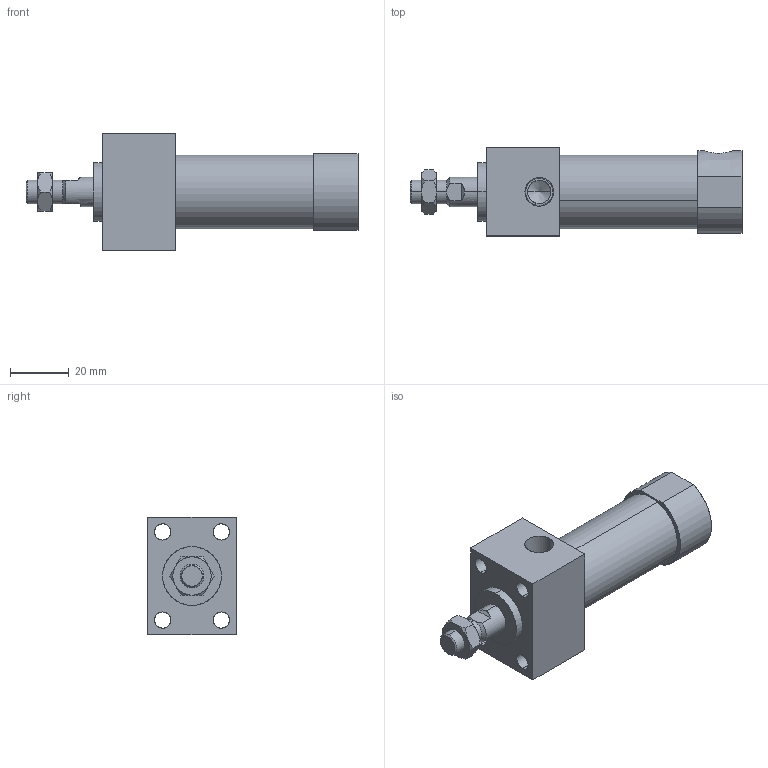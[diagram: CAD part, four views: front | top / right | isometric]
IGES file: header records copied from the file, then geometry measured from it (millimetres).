
Start section: SolidWorks IGES file using analytic representation for surfaces
Global section: file name: C:\Users\Toshiba\Desktop\JGEF2-20-15.IGS; native system: SolidWorks 2014; preprocessor: SolidWorks 2014; author: Toshiba; date: 160420.150446; units: millimetre
Bounding box: 113 x 30 x 40 mm (x, y, z)
Surface area: 16953.2 mm2 (no closed solid volume)
Topology: 0 solids, 0 shells, 83 faces, 1478 edges, 1472 vertices
Faces by surface type: revolution 42, bspline 41
